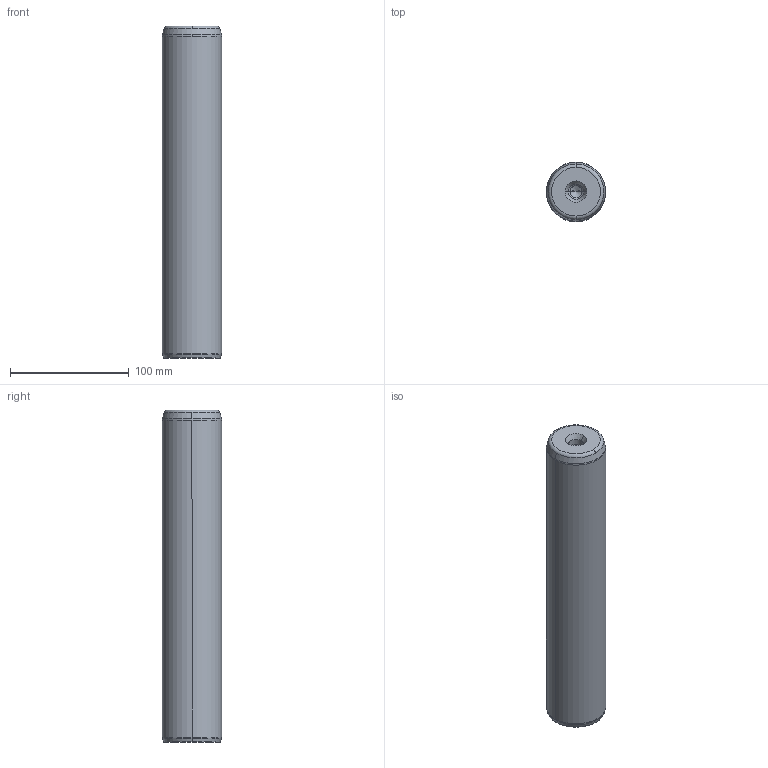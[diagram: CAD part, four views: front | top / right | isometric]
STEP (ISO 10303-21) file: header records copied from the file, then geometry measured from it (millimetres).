
FILE_DESCRIPTION((''),'2;1');
FILE_NAME('P10_050_280.stp','2008-12-23T16:14:08',(''),(''),'Mechanical Desktop 2009','Mechanical Desktop 2009',', , ');
FILE_SCHEMA(('CONFIG_CONTROL_DESIGN'));
Length unit declared in the file: millimetre
Products named in the file (5): Product; ProductAA; blmdl1; ProductA; blmdl1A
Assembly tree (2 placements, depth 3):
  Product
    ProductAA
      blmdl1
  ProductA
  blmdl1A
Bounding box: 50 x 50 x 280 mm (x, y, z)
Volume: 544141.4 mm3; surface area: 48545.4 mm2
Topology: 1 solids, 1 shells, 26 faces, 66 edges, 41 vertices
Faces by surface type: cone 10, torus 8, cylinder 6, plane 2
Entity records: 1012 total; most frequent: DIRECTION 170, CARTESIAN_POINT 134, ORIENTED_EDGE 128, AXIS2_PLACEMENT_3D 77, EDGE_CURVE 64, CIRCLE 48, VERTEX_POINT 41, EDGE_LOOP 27
